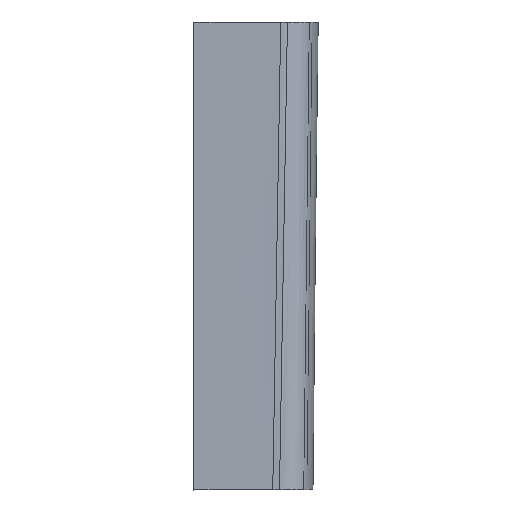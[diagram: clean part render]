
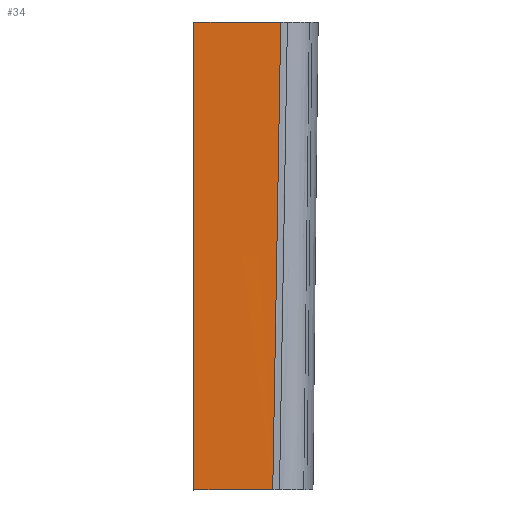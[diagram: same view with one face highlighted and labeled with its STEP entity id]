
A CAD part, left-side view. The second image highlights one B-rep face of the part: STEP entity #34.
In plain terms, the highlighted free-form (B-spline) face has degree [5, 5] with [9, 6] control points.
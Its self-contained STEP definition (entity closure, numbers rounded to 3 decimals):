
#34=ADVANCED_FACE('',(#69),#558,.T.);
#69=FACE_OUTER_BOUND('',#106,.T.);
#106=EDGE_LOOP('',(#222,#223,#224,#225));
#222=ORIENTED_EDGE('',*,*,#354,.T.);
#223=ORIENTED_EDGE('',*,*,#356,.T.);
#224=ORIENTED_EDGE('',*,*,#355,.F.);
#225=ORIENTED_EDGE('',*,*,#340,.F.);
#340=EDGE_CURVE('',#525,#511,#431,.T.);
#354=EDGE_CURVE('',#525,#532,#445,.T.);
#355=EDGE_CURVE('',#511,#512,#446,.T.);
#356=EDGE_CURVE('',#532,#512,#447,.T.);
#431=B_SPLINE_CURVE_WITH_KNOTS('',5,(#2876,#2877,#2878,#2879,#2880,#2881,
#2882,#2883,#2884,#2885,#2886,#2887,#2888,#2889,#2890,#2891,#2892,#2893,
#2894,#2895,#2896,#2897,#2898,#2899,#2900,#2901,#2902),.UNSPECIFIED.,.F.,
 .F.,(6,3,3,3,3,3,3,3,6),(-1014.293,-939.337,-737.18,
-534.646,-481.407,-329.77,-152.247,
-0.123,0.),.UNSPECIFIED.);
#445=B_SPLINE_CURVE_WITH_KNOTS('',5,(#3099,#3100,#3101,#3102,#3103,#3104),
 .UNSPECIFIED.,.F.,.F.,(6,6),(-44.424,76.24),
 .UNSPECIFIED.);
#446=B_SPLINE_CURVE_WITH_KNOTS('',5,(#3105,#3106,#3107,#3108,#3109,#3110),
 .UNSPECIFIED.,.F.,.F.,(6,6),(-132.778,0.),.UNSPECIFIED.);
#447=B_SPLINE_CURVE_WITH_KNOTS('',5,(#3111,#3112,#3113,#3114,#3115,#3116,
#3117,#3118,#3119),.UNSPECIFIED.,.F.,.F.,(6,3,6),(-715.162,-357.581,
0.),.UNSPECIFIED.);
#511=VERTEX_POINT('',#2600);
#512=VERTEX_POINT('',#2601);
#525=VERTEX_POINT('',#2614);
#532=VERTEX_POINT('',#2621);
#558=B_SPLINE_SURFACE_WITH_KNOTS('',5,5,((#817,#818,#819,#820,#821,#822),
(#823,#824,#825,#826,#827,#828),(#829,#830,#831,#832,#833,#834),(#835,#836,
#837,#838,#839,#840),(#841,#842,#843,#844,#845,#846),(#847,#848,#849,#850,
#851,#852),(#853,#854,#855,#856,#857,#858),(#859,#860,#861,#862,#863,#864),
(#865,#866,#867,#868,#869,#870)),.UNSPECIFIED.,.F.,.F.,.F.,(6,3,6),(6,6),
(0.,357.581,715.162),(-86.45,76.24),
 .UNSPECIFIED.);
#817=CARTESIAN_POINT('',(-85.765,125.,358.364));
#818=CARTESIAN_POINT('',(-85.265,92.447,358.364));
#819=CARTESIAN_POINT('',(-84.765,59.895,358.364));
#820=CARTESIAN_POINT('',(-84.265,27.342,358.364));
#821=CARTESIAN_POINT('',(-83.765,-5.21,358.364));
#822=CARTESIAN_POINT('',(-83.265,-37.763,358.364));
#823=CARTESIAN_POINT('',(-85.015,126.2,286.864));
#824=CARTESIAN_POINT('',(-84.849,93.646,286.861));
#825=CARTESIAN_POINT('',(-84.438,61.093,286.861));
#826=CARTESIAN_POINT('',(-83.905,28.541,286.863));
#827=CARTESIAN_POINT('',(-83.371,-4.01,286.864));
#828=CARTESIAN_POINT('',(-82.96,-36.563,286.864));
#829=CARTESIAN_POINT('',(-84.265,127.4,215.364));
#830=CARTESIAN_POINT('',(-84.668,94.85,215.355));
#831=CARTESIAN_POINT('',(-84.463,62.303,215.352));
#832=CARTESIAN_POINT('',(-83.908,29.758,215.353));
#833=CARTESIAN_POINT('',(-83.261,-2.787,215.354));
#834=CARTESIAN_POINT('',(-82.781,-35.335,215.352));
#835=CARTESIAN_POINT('',(-83.515,128.6,143.864));
#836=CARTESIAN_POINT('',(-83.321,96.055,143.861));
#837=CARTESIAN_POINT('',(-82.679,63.516,143.865));
#838=CARTESIAN_POINT('',(-81.865,30.98,143.872));
#839=CARTESIAN_POINT('',(-81.157,-1.557,143.879));
#840=CARTESIAN_POINT('',(-80.83,-34.098,143.88));
#841=CARTESIAN_POINT('',(-82.015,131.,0.864));
#842=CARTESIAN_POINT('',(-82.21,98.46,0.857));
#843=CARTESIAN_POINT('',(-81.622,65.932,0.859));
#844=CARTESIAN_POINT('',(-80.656,33.41,0.865));
#845=CARTESIAN_POINT('',(-79.717,0.887,0.871));
#846=CARTESIAN_POINT('',(-79.21,-31.643,0.872));
#847=CARTESIAN_POINT('',(-80.515,133.4,-142.136));
#848=CARTESIAN_POINT('',(-80.321,100.869,-142.139));
#849=CARTESIAN_POINT('',(-79.526,68.35,-142.135));
#850=CARTESIAN_POINT('',(-78.472,35.838,-142.129));
#851=CARTESIAN_POINT('',(-77.5,3.326,-142.122));
#852=CARTESIAN_POINT('',(-76.949,-29.194,-142.12));
#853=CARTESIAN_POINT('',(-79.765,134.6,-213.636));
#854=CARTESIAN_POINT('',(-80.168,102.07,-213.645));
#855=CARTESIAN_POINT('',(-79.772,69.553,-213.649));
#856=CARTESIAN_POINT('',(-78.916,37.042,-213.648));
#857=CARTESIAN_POINT('',(-77.939,4.53,-213.647));
#858=CARTESIAN_POINT('',(-77.18,-27.987,-213.648));
#859=CARTESIAN_POINT('',(-79.015,135.8,-285.136));
#860=CARTESIAN_POINT('',(-78.849,103.274,-285.139));
#861=CARTESIAN_POINT('',(-78.285,70.755,-285.14));
#862=CARTESIAN_POINT('',(-77.512,38.241,-285.138));
#863=CARTESIAN_POINT('',(-76.715,5.728,-285.136));
#864=CARTESIAN_POINT('',(-76.081,-26.789,-285.136));
#865=CARTESIAN_POINT('',(-78.265,137.,-356.636));
#866=CARTESIAN_POINT('',(-77.766,104.482,-356.636));
#867=CARTESIAN_POINT('',(-77.266,71.965,-356.636));
#868=CARTESIAN_POINT('',(-76.767,39.447,-356.636));
#869=CARTESIAN_POINT('',(-76.268,6.929,-356.636));
#870=CARTESIAN_POINT('',(-75.768,-25.589,-356.636));
#2600=CARTESIAN_POINT('',(-85.305,95.,358.364));
#2601=CARTESIAN_POINT('',(-83.265,-37.763,358.364));
#2614=CARTESIAN_POINT('',(-77.62,95.,-356.636));
#2621=CARTESIAN_POINT('',(-75.768,-25.589,-356.636));
#2876=CARTESIAN_POINT('',(-77.62,95.,-356.636));
#2877=CARTESIAN_POINT('',(-77.763,95.,-346.038));
#2878=CARTESIAN_POINT('',(-77.913,95.,-335.44));
#2879=CARTESIAN_POINT('',(-78.065,95.,-324.843));
#2880=CARTESIAN_POINT('',(-78.619,95.,-285.663));
#2881=CARTESIAN_POINT('',(-79.132,95.,-246.483));
#2882=CARTESIAN_POINT('',(-79.451,95.,-217.814));
#2883=CARTESIAN_POINT('',(-80.029,95.,-160.594));
#2884=CARTESIAN_POINT('',(-80.583,95.,-103.373));
#2885=CARTESIAN_POINT('',(-80.876,95.,-74.917));
#2886=CARTESIAN_POINT('',(-81.292,95.,-38.753));
#2887=CARTESIAN_POINT('',(-81.697,95.,-2.59));
#2888=CARTESIAN_POINT('',(-81.759,95.,3.051));
#2889=CARTESIAN_POINT('',(-82.071,95.,32.018));
#2890=CARTESIAN_POINT('',(-82.375,95.,60.986));
#2891=CARTESIAN_POINT('',(-82.613,95.,82.477));
#2892=CARTESIAN_POINT('',(-83.149,95.,129.017));
#2893=CARTESIAN_POINT('',(-83.696,95.,175.556));
#2894=CARTESIAN_POINT('',(-83.982,95.,200.569));
#2895=CARTESIAN_POINT('',(-84.462,95.,247.178));
#2896=CARTESIAN_POINT('',(-84.844,95.,293.788));
#2897=CARTESIAN_POINT('',(-84.999,95.,315.258));
#2898=CARTESIAN_POINT('',(-85.143,95.,336.785));
#2899=CARTESIAN_POINT('',(-85.304,95.,358.312));
#2900=CARTESIAN_POINT('',(-85.304,95.,358.315));
#2901=CARTESIAN_POINT('',(-85.304,95.,358.34));
#2902=CARTESIAN_POINT('',(-85.305,95.,358.364));
#3099=CARTESIAN_POINT('',(-77.62,95.,-356.636));
#3100=CARTESIAN_POINT('',(-77.25,70.882,-356.636));
#3101=CARTESIAN_POINT('',(-76.879,46.765,-356.636));
#3102=CARTESIAN_POINT('',(-76.509,22.647,-356.636));
#3103=CARTESIAN_POINT('',(-76.139,-1.471,-356.636));
#3104=CARTESIAN_POINT('',(-75.768,-25.589,-356.636));
#3105=CARTESIAN_POINT('',(-85.305,95.,358.364));
#3106=CARTESIAN_POINT('',(-84.897,68.447,358.364));
#3107=CARTESIAN_POINT('',(-84.489,41.895,358.364));
#3108=CARTESIAN_POINT('',(-84.081,15.342,358.364));
#3109=CARTESIAN_POINT('',(-83.673,-11.21,358.364));
#3110=CARTESIAN_POINT('',(-83.265,-37.763,358.364));
#3111=CARTESIAN_POINT('',(-75.768,-25.589,-356.636));
#3112=CARTESIAN_POINT('',(-76.081,-26.789,-285.136));
#3113=CARTESIAN_POINT('',(-77.18,-27.987,-213.648));
#3114=CARTESIAN_POINT('',(-76.949,-29.194,-142.12));
#3115=CARTESIAN_POINT('',(-79.21,-31.643,0.872));
#3116=CARTESIAN_POINT('',(-80.83,-34.098,143.88));
#3117=CARTESIAN_POINT('',(-82.781,-35.335,215.352));
#3118=CARTESIAN_POINT('',(-82.96,-36.563,286.864));
#3119=CARTESIAN_POINT('',(-83.265,-37.763,358.364));
